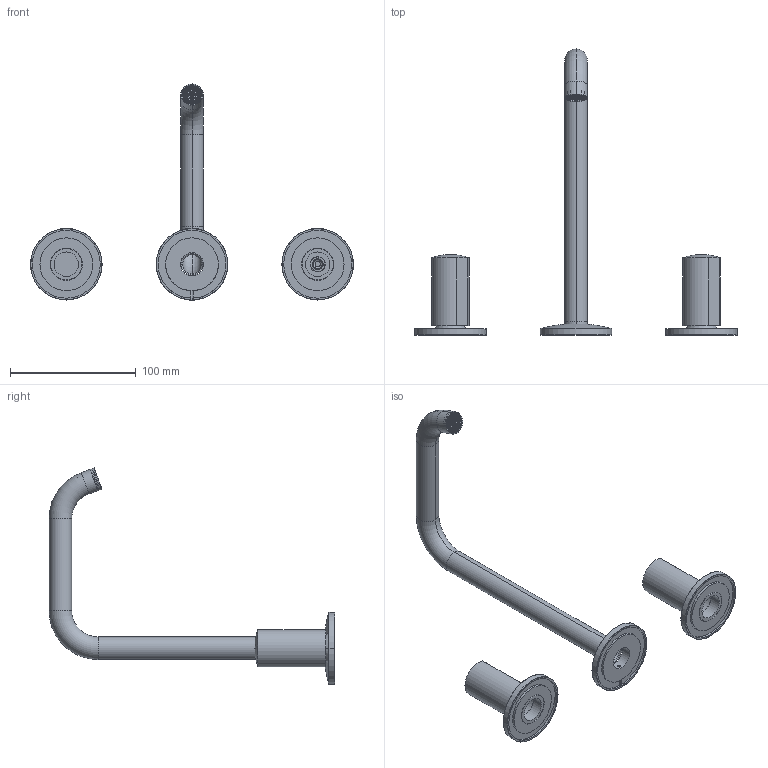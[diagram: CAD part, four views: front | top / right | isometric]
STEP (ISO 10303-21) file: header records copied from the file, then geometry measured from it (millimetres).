
FILE_DESCRIPTION((''),'2;1');
FILE_NAME('F3191B_FILE_3D','2019-04-10T',('ivanv'),(''),'CREO PARAMETRIC BY PTC INC, 2016260','CREO PARAMETRIC BY PTC INC, 2016260','');
FILE_SCHEMA(('CONFIG_CONTROL_DESIGN'));
Length unit declared in the file: millimetre
Products named in the file (1): F3191B_FILE_3D
Bounding box: 257 x 227.5 x 171.96 mm (x, y, z)
Volume: 90662.8 mm3; surface area: 82564.5 mm2
Topology: 9 solids, 9 shells, 2553 faces, 6936 edges, 4425 vertices
Faces by surface type: plane 1859, cylinder 439, bspline 105, torus 94, cone 52, sphere 4
Entity records: 106747 total; most frequent: CARTESIAN_POINT 47205, ORIENTED_EDGE 13860, DIRECTION 9849, EDGE_CURVE 6930, VERTEX_POINT 4425, VECTOR 3391, LINE 3391, AXIS2_PLACEMENT_3D 3229
